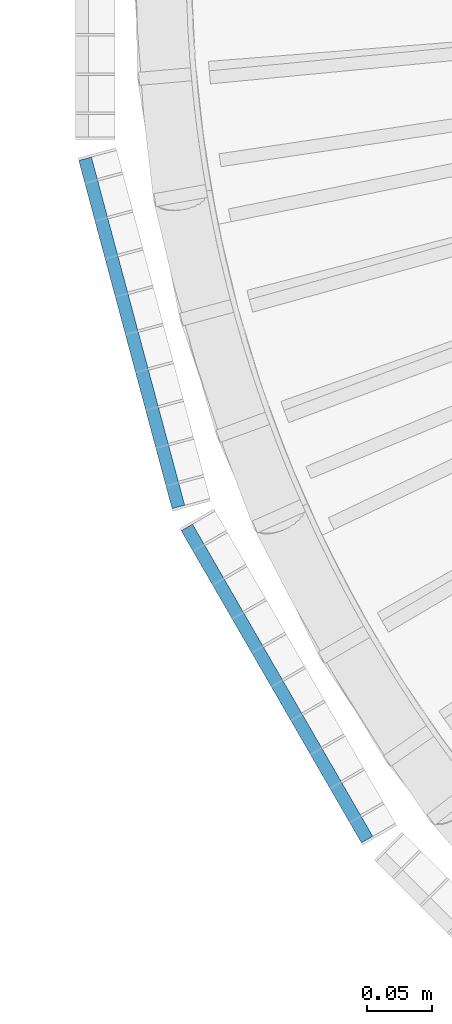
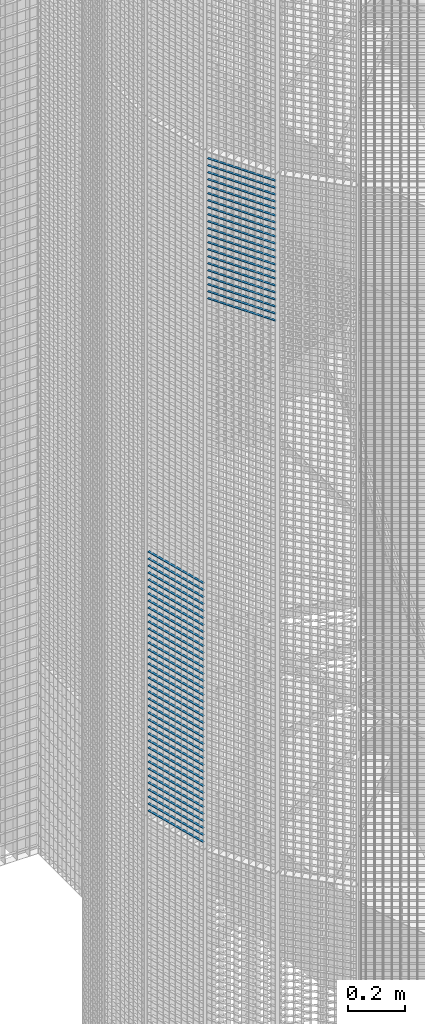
# One storey, part 363 of 1183: 59 beams, 2 elements without a shape of their own.
"""IFC2X3 building model written with IfcOpenShell, lengths in millimetres."""

from ifc_helpers import new_model, si_unit, frame, origin_with_axes, origin_2d_with_axis, place, context, subcontext, project, spatial, rectangle, extrude, material, type_object, element, aggregate, save


model = new_model("IFC2X3")

# Units and contexts
model_context = context("Model", 3, precision=1e-05, world=origin_with_axes())
body_context = subcontext(model_context, "Body", "Model", "MODEL_VIEW")
ifc_project = project(units=[si_unit("LENGTHUNIT", "METRE", prefix="MILLI"), si_unit("AREAUNIT", "SQUARE_METRE"), si_unit("VOLUMEUNIT", "CUBIC_METRE"), si_unit("MASSUNIT", "GRAM", prefix="KILO"), si_unit("TIMEUNIT", "SECOND"), si_unit("PLANEANGLEUNIT", "RADIAN"), si_unit("SOLIDANGLEUNIT", "STERADIAN"), si_unit("THERMODYNAMICTEMPERATUREUNIT", "DEGREE_CELSIUS"), si_unit("LUMINOUSINTENSITYUNIT", "LUMEN")], contexts=[model_context])

# Site, building, storey
site_placement = place(None, origin_with_axes())
site = spatial("IfcSite", under=ifc_project, at=site_placement, Name="Undefined", CompositionType="ELEMENT")
building_placement = place(site_placement, origin_with_axes())
building = spatial("IfcBuilding", under=site, at=building_placement, Name="Undefined", CompositionType="ELEMENT")
storey_placement = place(building_placement, origin_with_axes())
storey = spatial("IfcBuildingStorey", under=building, at=storey_placement, Name="Undefined", CompositionType="ELEMENT", Elevation=0.0)

# Assembly, beams
assembly_1_placement = place(storey_placement, origin_with_axes())
assembly_1 = element("IfcElementAssembly", 1, at=assembly_1_placement, inside=storey, Name="BORDURE", AssemblyPlace="NOTDEFINED", PredefinedType="NOTDEFINED")
ifc_material = material(Name="STEEL/S235JR")
beam_type = type_object("IfcBeamType", Name="PL2*10", PredefinedType="NOTDEFINED")
beam_1_placement = place(assembly_1_placement, frame((20560.1769047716, -421.483733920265, 7140.0), z_axis=(-0.965925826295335, -0.258819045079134, 0.0), x_axis=(-0.258819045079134, 0.965925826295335, 0.0)))
beam_1 = element("IfcBeam", 2, at=beam_1_placement, type_object=beam_type, material=ifc_material, Name="ENTRETOISE", context=body_context, shape_type="SweptSolid", body=[
    extrude(rectangle(XDim=2.0, YDim=10.0, at=origin_2d_with_axis()), frame((275.999999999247, 9.09494701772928e-13, 1.53210777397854e-14), z_axis=(-1.0, 0.0, 0.0), x_axis=(0.0, -1.0, 0.0)), (0.0, 0.0, 1.0), 276.0),
])
beam_2_placement = place(assembly_1_placement, frame((20560.1769047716, -421.483733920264, 6720.0), z_axis=(-0.965925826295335, -0.258819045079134, 0.0), x_axis=(-0.258819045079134, 0.965925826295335, 0.0)))
beam_2 = element("IfcBeam", 3, at=beam_2_placement, type_object=beam_type, material=ifc_material, Name="ENTRETOISE", context=body_context, shape_type="SweptSolid", body=[
    extrude(rectangle(XDim=2.0, YDim=10.0, at=origin_2d_with_axis()), frame((275.999999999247, 9.09494701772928e-13, 1.53210777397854e-14), z_axis=(-1.0, 0.0, 0.0), x_axis=(0.0, -1.0, 0.0)), (0.0, 0.0, 1.0), 276.0),
])
beam_3_placement = place(assembly_1_placement, frame((20560.1769047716, -421.483733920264, 6690.0), z_axis=(-0.965925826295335, -0.258819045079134, 0.0), x_axis=(-0.258819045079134, 0.965925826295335, 0.0)))
beam_3 = element("IfcBeam", 4, at=beam_3_placement, type_object=beam_type, material=ifc_material, Name="ENTRETOISE", context=body_context, shape_type="SweptSolid", body=[
    extrude(rectangle(XDim=2.0, YDim=10.0, at=origin_2d_with_axis()), frame((275.999999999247, 9.09494701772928e-13, 1.53210777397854e-14), z_axis=(-1.0, 0.0, 0.0), x_axis=(0.0, -1.0, 0.0)), (0.0, 0.0, 1.0), 276.0),
])
beam_4_placement = place(assembly_1_placement, frame((20560.1769047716, -421.483733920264, 6750.0), z_axis=(-0.965925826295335, -0.258819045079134, 0.0), x_axis=(-0.258819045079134, 0.965925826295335, 0.0)))
beam_4 = element("IfcBeam", 5, at=beam_4_placement, type_object=beam_type, material=ifc_material, Name="ENTRETOISE", context=body_context, shape_type="SweptSolid", body=[
    extrude(rectangle(XDim=2.0, YDim=10.0, at=origin_2d_with_axis()), frame((275.999999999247, 9.09494701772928e-13, 1.53210777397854e-14), z_axis=(-1.0, 0.0, 0.0), x_axis=(0.0, -1.0, 0.0)), (0.0, 0.0, 1.0), 276.0),
])
beam_5_placement = place(assembly_1_placement, frame((20560.1769047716, -421.483733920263, 6660.0), z_axis=(-0.965925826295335, -0.258819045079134, 0.0), x_axis=(-0.258819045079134, 0.965925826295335, 0.0)))
beam_5 = element("IfcBeam", 6, at=beam_5_placement, type_object=beam_type, material=ifc_material, Name="ENTRETOISE", context=body_context, shape_type="SweptSolid", body=[
    extrude(rectangle(XDim=2.0, YDim=10.0, at=origin_2d_with_axis()), frame((275.999999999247, 9.09494701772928e-13, 1.53210777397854e-14), z_axis=(-1.0, 0.0, 0.0), x_axis=(0.0, -1.0, 0.0)), (0.0, 0.0, 1.0), 276.0),
])
beam_6_placement = place(assembly_1_placement, frame((20560.1769047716, -421.483733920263, 6630.0), z_axis=(-0.965925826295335, -0.258819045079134, 0.0), x_axis=(-0.258819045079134, 0.965925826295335, 0.0)))
beam_6 = element("IfcBeam", 7, at=beam_6_placement, type_object=beam_type, material=ifc_material, Name="ENTRETOISE", context=body_context, shape_type="SweptSolid", body=[
    extrude(rectangle(XDim=2.0, YDim=10.0, at=origin_2d_with_axis()), frame((275.999999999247, 9.09494701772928e-13, 1.53210777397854e-14), z_axis=(-1.0, 0.0, 0.0), x_axis=(0.0, -1.0, 0.0)), (0.0, 0.0, 1.0), 276.0),
])
beam_7_placement = place(assembly_1_placement, frame((20560.1769047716, -421.483733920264, 6780.0), z_axis=(-0.965925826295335, -0.258819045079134, 0.0), x_axis=(-0.258819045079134, 0.965925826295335, 0.0)))
beam_7 = element("IfcBeam", 8, at=beam_7_placement, type_object=beam_type, material=ifc_material, Name="ENTRETOISE", context=body_context, shape_type="SweptSolid", body=[
    extrude(rectangle(XDim=2.0, YDim=10.0, at=origin_2d_with_axis()), frame((275.999999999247, 9.09494701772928e-13, 1.53210777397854e-14), z_axis=(-1.0, 0.0, 0.0), x_axis=(0.0, -1.0, 0.0)), (0.0, 0.0, 1.0), 276.0),
])
beam_8_placement = place(assembly_1_placement, frame((20560.1769047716, -421.483733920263, 6600.0), z_axis=(-0.965925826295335, -0.258819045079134, 0.0), x_axis=(-0.258819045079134, 0.965925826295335, 0.0)))
beam_8 = element("IfcBeam", 9, at=beam_8_placement, type_object=beam_type, material=ifc_material, Name="ENTRETOISE", context=body_context, shape_type="SweptSolid", body=[
    extrude(rectangle(XDim=2.0, YDim=10.0, at=origin_2d_with_axis()), frame((275.999999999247, 9.09494701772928e-13, 1.53210777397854e-14), z_axis=(-1.0, 0.0, 0.0), x_axis=(0.0, -1.0, 0.0)), (0.0, 0.0, 1.0), 276.0),
])
beam_9_placement = place(assembly_1_placement, frame((20560.1769047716, -421.483733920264, 6810.0), z_axis=(-0.965925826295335, -0.258819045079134, 0.0), x_axis=(-0.258819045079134, 0.965925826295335, 0.0)))
beam_9 = element("IfcBeam", 10, at=beam_9_placement, type_object=beam_type, material=ifc_material, Name="ENTRETOISE", context=body_context, shape_type="SweptSolid", body=[
    extrude(rectangle(XDim=2.0, YDim=10.0, at=origin_2d_with_axis()), frame((275.999999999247, 9.09494701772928e-13, 1.53210777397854e-14), z_axis=(-1.0, 0.0, 0.0), x_axis=(0.0, -1.0, 0.0)), (0.0, 0.0, 1.0), 276.0),
])
beam_10_placement = place(assembly_1_placement, frame((20560.1769047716, -421.483733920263, 6570.0), z_axis=(-0.965925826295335, -0.258819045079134, 0.0), x_axis=(-0.258819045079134, 0.965925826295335, 0.0)))
beam_10 = element("IfcBeam", 11, at=beam_10_placement, type_object=beam_type, material=ifc_material, Name="ENTRETOISE", context=body_context, shape_type="SweptSolid", body=[
    extrude(rectangle(XDim=2.0, YDim=10.0, at=origin_2d_with_axis()), frame((275.999999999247, 9.09494701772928e-13, 1.53210777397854e-14), z_axis=(-1.0, 0.0, 0.0), x_axis=(0.0, -1.0, 0.0)), (0.0, 0.0, 1.0), 276.0),
])
beam_11_placement = place(assembly_1_placement, frame((20560.1769047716, -421.483733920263, 6540.0), z_axis=(-0.965925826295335, -0.258819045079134, 0.0), x_axis=(-0.258819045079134, 0.965925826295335, 0.0)))
beam_11 = element("IfcBeam", 12, at=beam_11_placement, type_object=beam_type, material=ifc_material, Name="ENTRETOISE", context=body_context, shape_type="SweptSolid", body=[
    extrude(rectangle(XDim=2.0, YDim=10.0, at=origin_2d_with_axis()), frame((275.999999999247, 9.09494701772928e-13, 1.53210777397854e-14), z_axis=(-1.0, 0.0, 0.0), x_axis=(0.0, -1.0, 0.0)), (0.0, 0.0, 1.0), 276.0),
])
beam_12_placement = place(assembly_1_placement, frame((20560.1769047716, -421.483733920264, 6840.0), z_axis=(-0.965925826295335, -0.258819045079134, 0.0), x_axis=(-0.258819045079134, 0.965925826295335, 0.0)))
beam_12 = element("IfcBeam", 13, at=beam_12_placement, type_object=beam_type, material=ifc_material, Name="ENTRETOISE", context=body_context, shape_type="SweptSolid", body=[
    extrude(rectangle(XDim=2.0, YDim=10.0, at=origin_2d_with_axis()), frame((275.999999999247, 9.09494701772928e-13, 1.53210777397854e-14), z_axis=(-1.0, 0.0, 0.0), x_axis=(0.0, -1.0, 0.0)), (0.0, 0.0, 1.0), 276.0),
])
beam_13_placement = place(assembly_1_placement, frame((20560.1769047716, -421.483733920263, 6510.0), z_axis=(-0.965925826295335, -0.258819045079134, 0.0), x_axis=(-0.258819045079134, 0.965925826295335, 0.0)))
beam_13 = element("IfcBeam", 14, at=beam_13_placement, type_object=beam_type, material=ifc_material, Name="ENTRETOISE", context=body_context, shape_type="SweptSolid", body=[
    extrude(rectangle(XDim=2.0, YDim=10.0, at=origin_2d_with_axis()), frame((275.999999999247, 9.09494701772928e-13, 1.53210777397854e-14), z_axis=(-1.0, 0.0, 0.0), x_axis=(0.0, -1.0, 0.0)), (0.0, 0.0, 1.0), 276.0),
])
beam_14_placement = place(assembly_1_placement, frame((20560.1769047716, -421.483733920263, 6480.0), z_axis=(-0.965925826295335, -0.258819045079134, 0.0), x_axis=(-0.258819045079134, 0.965925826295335, 0.0)))
beam_14 = element("IfcBeam", 15, at=beam_14_placement, type_object=beam_type, material=ifc_material, Name="ENTRETOISE", context=body_context, shape_type="SweptSolid", body=[
    extrude(rectangle(XDim=2.0, YDim=10.0, at=origin_2d_with_axis()), frame((275.999999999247, 9.09494701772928e-13, 1.53210777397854e-14), z_axis=(-1.0, 0.0, 0.0), x_axis=(0.0, -1.0, 0.0)), (0.0, 0.0, 1.0), 276.0),
])
beam_15_placement = place(assembly_1_placement, frame((20560.1769047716, -421.483733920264, 6870.0), z_axis=(-0.965925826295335, -0.258819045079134, 0.0), x_axis=(-0.258819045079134, 0.965925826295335, 0.0)))
beam_15 = element("IfcBeam", 16, at=beam_15_placement, type_object=beam_type, material=ifc_material, Name="ENTRETOISE", context=body_context, shape_type="SweptSolid", body=[
    extrude(rectangle(XDim=2.0, YDim=10.0, at=origin_2d_with_axis()), frame((275.999999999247, 9.09494701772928e-13, 1.53210777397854e-14), z_axis=(-1.0, 0.0, 0.0), x_axis=(0.0, -1.0, 0.0)), (0.0, 0.0, 1.0), 276.0),
])
beam_16_placement = place(assembly_1_placement, frame((20560.1769047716, -421.483733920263, 6450.0), z_axis=(-0.965925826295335, -0.258819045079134, 0.0), x_axis=(-0.258819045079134, 0.965925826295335, 0.0)))
beam_16 = element("IfcBeam", 17, at=beam_16_placement, type_object=beam_type, material=ifc_material, Name="ENTRETOISE", context=body_context, shape_type="SweptSolid", body=[
    extrude(rectangle(XDim=2.0, YDim=10.0, at=origin_2d_with_axis()), frame((275.999999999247, 9.09494701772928e-13, 1.53210777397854e-14), z_axis=(-1.0, 0.0, 0.0), x_axis=(0.0, -1.0, 0.0)), (0.0, 0.0, 1.0), 276.0),
])
beam_17_placement = place(assembly_1_placement, frame((20560.1769047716, -421.483733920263, 6420.0), z_axis=(-0.965925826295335, -0.258819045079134, 0.0), x_axis=(-0.258819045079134, 0.965925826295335, 0.0)))
beam_17 = element("IfcBeam", 18, at=beam_17_placement, type_object=beam_type, material=ifc_material, Name="ENTRETOISE", context=body_context, shape_type="SweptSolid", body=[
    extrude(rectangle(XDim=2.0, YDim=10.0, at=origin_2d_with_axis()), frame((275.999999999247, 9.09494701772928e-13, 1.53210777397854e-14), z_axis=(-1.0, 0.0, 0.0), x_axis=(0.0, -1.0, 0.0)), (0.0, 0.0, 1.0), 276.0),
])
beam_18_placement = place(assembly_1_placement, frame((20560.1769047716, -421.483733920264, 6900.0), z_axis=(-0.965925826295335, -0.258819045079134, 0.0), x_axis=(-0.258819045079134, 0.965925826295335, 0.0)))
beam_18 = element("IfcBeam", 19, at=beam_18_placement, type_object=beam_type, material=ifc_material, Name="ENTRETOISE", context=body_context, shape_type="SweptSolid", body=[
    extrude(rectangle(XDim=2.0, YDim=10.0, at=origin_2d_with_axis()), frame((275.999999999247, 9.09494701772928e-13, 1.53210777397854e-14), z_axis=(-1.0, 0.0, 0.0), x_axis=(0.0, -1.0, 0.0)), (0.0, 0.0, 1.0), 276.0),
])
beam_19_placement = place(assembly_1_placement, frame((20560.1769047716, -421.483733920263, 6390.0), z_axis=(-0.965925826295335, -0.258819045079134, 0.0), x_axis=(-0.258819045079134, 0.965925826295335, 0.0)))
beam_19 = element("IfcBeam", 20, at=beam_19_placement, type_object=beam_type, material=ifc_material, Name="ENTRETOISE", context=body_context, shape_type="SweptSolid", body=[
    extrude(rectangle(XDim=2.0, YDim=10.0, at=origin_2d_with_axis()), frame((275.999999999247, 9.09494701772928e-13, 1.53210777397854e-14), z_axis=(-1.0, 0.0, 0.0), x_axis=(0.0, -1.0, 0.0)), (0.0, 0.0, 1.0), 276.0),
])
beam_20_placement = place(assembly_1_placement, frame((20560.1769047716, -421.483733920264, 6930.0), z_axis=(-0.965925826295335, -0.258819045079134, 0.0), x_axis=(-0.258819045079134, 0.965925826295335, 0.0)))
beam_20 = element("IfcBeam", 21, at=beam_20_placement, type_object=beam_type, material=ifc_material, Name="ENTRETOISE", context=body_context, shape_type="SweptSolid", body=[
    extrude(rectangle(XDim=2.0, YDim=10.0, at=origin_2d_with_axis()), frame((275.999999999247, 9.09494701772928e-13, 1.53210777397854e-14), z_axis=(-1.0, 0.0, 0.0), x_axis=(0.0, -1.0, 0.0)), (0.0, 0.0, 1.0), 276.0),
])
beam_21_placement = place(assembly_1_placement, frame((20560.1769047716, -421.483733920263, 6360.0), z_axis=(-0.965925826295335, -0.258819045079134, 0.0), x_axis=(-0.258819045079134, 0.965925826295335, 0.0)))
beam_21 = element("IfcBeam", 22, at=beam_21_placement, type_object=beam_type, material=ifc_material, Name="ENTRETOISE", context=body_context, shape_type="SweptSolid", body=[
    extrude(rectangle(XDim=2.0, YDim=10.0, at=origin_2d_with_axis()), frame((275.999999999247, 9.09494701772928e-13, 1.53210777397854e-14), z_axis=(-1.0, 0.0, 0.0), x_axis=(0.0, -1.0, 0.0)), (0.0, 0.0, 1.0), 276.0),
])
beam_22_placement = place(assembly_1_placement, frame((20560.1769047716, -421.483733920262, 6330.0), z_axis=(-0.965925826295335, -0.258819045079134, 0.0), x_axis=(-0.258819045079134, 0.965925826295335, 0.0)))
beam_22 = element("IfcBeam", 23, at=beam_22_placement, type_object=beam_type, material=ifc_material, Name="ENTRETOISE", context=body_context, shape_type="SweptSolid", body=[
    extrude(rectangle(XDim=2.0, YDim=10.0, at=origin_2d_with_axis()), frame((275.999999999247, 9.09494701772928e-13, 1.53210777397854e-14), z_axis=(-1.0, 0.0, 0.0), x_axis=(0.0, -1.0, 0.0)), (0.0, 0.0, 1.0), 276.0),
])
beam_23_placement = place(assembly_1_placement, frame((20560.1769047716, -421.483733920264, 6960.0), z_axis=(-0.965925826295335, -0.258819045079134, 0.0), x_axis=(-0.258819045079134, 0.965925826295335, 0.0)))
beam_23 = element("IfcBeam", 24, at=beam_23_placement, type_object=beam_type, material=ifc_material, Name="ENTRETOISE", context=body_context, shape_type="SweptSolid", body=[
    extrude(rectangle(XDim=2.0, YDim=10.0, at=origin_2d_with_axis()), frame((275.999999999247, 9.09494701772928e-13, 1.53210777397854e-14), z_axis=(-1.0, 0.0, 0.0), x_axis=(0.0, -1.0, 0.0)), (0.0, 0.0, 1.0), 276.0),
])
beam_24_placement = place(assembly_1_placement, frame((20560.1769047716, -421.483733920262, 6300.0), z_axis=(-0.965925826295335, -0.258819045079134, 0.0), x_axis=(-0.258819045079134, 0.965925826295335, 0.0)))
beam_24 = element("IfcBeam", 25, at=beam_24_placement, type_object=beam_type, material=ifc_material, Name="ENTRETOISE", context=body_context, shape_type="SweptSolid", body=[
    extrude(rectangle(XDim=2.0, YDim=10.0, at=origin_2d_with_axis()), frame((275.999999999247, 9.09494701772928e-13, 1.53210777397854e-14), z_axis=(-1.0, 0.0, 0.0), x_axis=(0.0, -1.0, 0.0)), (0.0, 0.0, 1.0), 276.0),
])
beam_25_placement = place(assembly_1_placement, frame((20560.1769047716, -421.483733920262, 6270.0), z_axis=(-0.965925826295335, -0.258819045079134, 0.0), x_axis=(-0.258819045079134, 0.965925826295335, 0.0)))
beam_25 = element("IfcBeam", 26, at=beam_25_placement, type_object=beam_type, material=ifc_material, Name="ENTRETOISE", context=body_context, shape_type="SweptSolid", body=[
    extrude(rectangle(XDim=2.0, YDim=10.0, at=origin_2d_with_axis()), frame((275.999999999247, 9.09494701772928e-13, 1.53210777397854e-14), z_axis=(-1.0, 0.0, 0.0), x_axis=(0.0, -1.0, 0.0)), (0.0, 0.0, 1.0), 276.0),
])
beam_26_placement = place(assembly_1_placement, frame((20560.1769047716, -421.483733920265, 6990.0), z_axis=(-0.965925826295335, -0.258819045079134, 0.0), x_axis=(-0.258819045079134, 0.965925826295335, 0.0)))
beam_26 = element("IfcBeam", 27, at=beam_26_placement, type_object=beam_type, material=ifc_material, Name="ENTRETOISE", context=body_context, shape_type="SweptSolid", body=[
    extrude(rectangle(XDim=2.0, YDim=10.0, at=origin_2d_with_axis()), frame((275.999999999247, 9.09494701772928e-13, 1.53210777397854e-14), z_axis=(-1.0, 0.0, 0.0), x_axis=(0.0, -1.0, 0.0)), (0.0, 0.0, 1.0), 276.0),
])
beam_27_placement = place(assembly_1_placement, frame((20560.1769047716, -421.483733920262, 6240.0), z_axis=(-0.965925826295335, -0.258819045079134, 0.0), x_axis=(-0.258819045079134, 0.965925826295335, 0.0)))
beam_27 = element("IfcBeam", 28, at=beam_27_placement, type_object=beam_type, material=ifc_material, Name="ENTRETOISE", context=body_context, shape_type="SweptSolid", body=[
    extrude(rectangle(XDim=2.0, YDim=10.0, at=origin_2d_with_axis()), frame((275.999999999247, 9.09494701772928e-13, 1.53210777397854e-14), z_axis=(-1.0, 0.0, 0.0), x_axis=(0.0, -1.0, 0.0)), (0.0, 0.0, 1.0), 276.0),
])
beam_28_placement = place(assembly_1_placement, frame((20560.1769047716, -421.483733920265, 7020.0), z_axis=(-0.965925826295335, -0.258819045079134, 0.0), x_axis=(-0.258819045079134, 0.965925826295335, 0.0)))
beam_28 = element("IfcBeam", 29, at=beam_28_placement, type_object=beam_type, material=ifc_material, Name="ENTRETOISE", context=body_context, shape_type="SweptSolid", body=[
    extrude(rectangle(XDim=2.0, YDim=10.0, at=origin_2d_with_axis()), frame((275.999999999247, 9.09494701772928e-13, 1.53210777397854e-14), z_axis=(-1.0, 0.0, 0.0), x_axis=(0.0, -1.0, 0.0)), (0.0, 0.0, 1.0), 276.0),
])
beam_29_placement = place(assembly_1_placement, frame((20560.1769047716, -421.483733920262, 6210.0), z_axis=(-0.965925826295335, -0.258819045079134, 0.0), x_axis=(-0.258819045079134, 0.965925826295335, 0.0)))
beam_29 = element("IfcBeam", 30, at=beam_29_placement, type_object=beam_type, material=ifc_material, Name="ENTRETOISE", context=body_context, shape_type="SweptSolid", body=[
    extrude(rectangle(XDim=2.0, YDim=10.0, at=origin_2d_with_axis()), frame((275.999999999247, 9.09494701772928e-13, 1.53210777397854e-14), z_axis=(-1.0, 0.0, 0.0), x_axis=(0.0, -1.0, 0.0)), (0.0, 0.0, 1.0), 276.0),
])
beam_30_placement = place(assembly_1_placement, frame((20560.1769047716, -421.483733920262, 6180.0), z_axis=(-0.965925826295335, -0.258819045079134, 0.0), x_axis=(-0.258819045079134, 0.965925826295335, 0.0)))
beam_30 = element("IfcBeam", 31, at=beam_30_placement, type_object=beam_type, material=ifc_material, Name="ENTRETOISE", context=body_context, shape_type="SweptSolid", body=[
    extrude(rectangle(XDim=2.0, YDim=10.0, at=origin_2d_with_axis()), frame((275.999999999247, 9.09494701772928e-13, 1.53210777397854e-14), z_axis=(-1.0, 0.0, 0.0), x_axis=(0.0, -1.0, 0.0)), (0.0, 0.0, 1.0), 276.0),
])
beam_31_placement = place(assembly_1_placement, frame((20560.1769047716, -421.483733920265, 7050.0), z_axis=(-0.965925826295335, -0.258819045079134, 0.0), x_axis=(-0.258819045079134, 0.965925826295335, 0.0)))
beam_31 = element("IfcBeam", 32, at=beam_31_placement, type_object=beam_type, material=ifc_material, Name="ENTRETOISE", context=body_context, shape_type="SweptSolid", body=[
    extrude(rectangle(XDim=2.0, YDim=10.0, at=origin_2d_with_axis()), frame((275.999999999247, 9.09494701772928e-13, 1.53210777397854e-14), z_axis=(-1.0, 0.0, 0.0), x_axis=(0.0, -1.0, 0.0)), (0.0, 0.0, 1.0), 276.0),
])
beam_32_placement = place(assembly_1_placement, frame((20560.1769047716, -421.483733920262, 6150.0), z_axis=(-0.965925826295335, -0.258819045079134, 0.0), x_axis=(-0.258819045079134, 0.965925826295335, 0.0)))
beam_32 = element("IfcBeam", 33, at=beam_32_placement, type_object=beam_type, material=ifc_material, Name="ENTRETOISE", context=body_context, shape_type="SweptSolid", body=[
    extrude(rectangle(XDim=2.0, YDim=10.0, at=origin_2d_with_axis()), frame((275.999999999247, 9.09494701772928e-13, 1.53210777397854e-14), z_axis=(-1.0, 0.0, 0.0), x_axis=(0.0, -1.0, 0.0)), (0.0, 0.0, 1.0), 276.0),
])
beam_33_placement = place(assembly_1_placement, frame((20560.1769047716, -421.483733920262, 6120.0), z_axis=(-0.965925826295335, -0.258819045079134, 0.0), x_axis=(-0.258819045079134, 0.965925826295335, 0.0)))
beam_33 = element("IfcBeam", 34, at=beam_33_placement, type_object=beam_type, material=ifc_material, Name="ENTRETOISE", context=body_context, shape_type="SweptSolid", body=[
    extrude(rectangle(XDim=2.0, YDim=10.0, at=origin_2d_with_axis()), frame((275.999999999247, 9.09494701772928e-13, 1.53210777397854e-14), z_axis=(-1.0, 0.0, 0.0), x_axis=(0.0, -1.0, 0.0)), (0.0, 0.0, 1.0), 276.0),
])
beam_34_placement = place(assembly_1_placement, frame((20560.1769047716, -421.483733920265, 7080.0), z_axis=(-0.965925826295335, -0.258819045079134, 0.0), x_axis=(-0.258819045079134, 0.965925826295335, 0.0)))
beam_34 = element("IfcBeam", 35, at=beam_34_placement, type_object=beam_type, material=ifc_material, Name="ENTRETOISE", context=body_context, shape_type="SweptSolid", body=[
    extrude(rectangle(XDim=2.0, YDim=10.0, at=origin_2d_with_axis()), frame((275.999999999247, 9.09494701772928e-13, 1.53210777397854e-14), z_axis=(-1.0, 0.0, 0.0), x_axis=(0.0, -1.0, 0.0)), (0.0, 0.0, 1.0), 276.0),
])
beam_35_placement = place(assembly_1_placement, frame((20560.1769047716, -421.483733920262, 6090.0), z_axis=(-0.965925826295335, -0.258819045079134, 0.0), x_axis=(-0.258819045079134, 0.965925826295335, 0.0)))
beam_35 = element("IfcBeam", 36, at=beam_35_placement, type_object=beam_type, material=ifc_material, Name="ENTRETOISE", context=body_context, shape_type="SweptSolid", body=[
    extrude(rectangle(XDim=2.0, YDim=10.0, at=origin_2d_with_axis()), frame((275.999999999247, 9.09494701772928e-13, 1.53210777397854e-14), z_axis=(-1.0, 0.0, 0.0), x_axis=(0.0, -1.0, 0.0)), (0.0, 0.0, 1.0), 276.0),
])
beam_36_placement = place(assembly_1_placement, frame((20560.1769047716, -421.483733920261, 6060.0), z_axis=(-0.965925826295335, -0.258819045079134, 0.0), x_axis=(-0.258819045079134, 0.965925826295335, 0.0)))
beam_36 = element("IfcBeam", 37, at=beam_36_placement, type_object=beam_type, material=ifc_material, Name="ENTRETOISE", context=body_context, shape_type="SweptSolid", body=[
    extrude(rectangle(XDim=2.0, YDim=10.0, at=origin_2d_with_axis()), frame((275.999999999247, 9.09494701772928e-13, 1.53210777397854e-14), z_axis=(-1.0, 0.0, 0.0), x_axis=(0.0, -1.0, 0.0)), (0.0, 0.0, 1.0), 276.0),
])
beam_37_placement = place(assembly_1_placement, frame((20560.1769047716, -421.483733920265, 7110.0), z_axis=(-0.965925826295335, -0.258819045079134, 0.0), x_axis=(-0.258819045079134, 0.965925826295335, 0.0)))
beam_37 = element("IfcBeam", 38, at=beam_37_placement, type_object=beam_type, material=ifc_material, Name="ENTRETOISE", context=body_context, shape_type="SweptSolid", body=[
    extrude(rectangle(XDim=2.0, YDim=10.0, at=origin_2d_with_axis()), frame((275.999999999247, 9.09494701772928e-13, 1.53210777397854e-14), z_axis=(-1.0, 0.0, 0.0), x_axis=(0.0, -1.0, 0.0)), (0.0, 0.0, 1.0), 276.0),
])
beam_38_placement = place(assembly_1_placement, frame((20560.1769047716, -421.48373392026, 6030.0), z_axis=(-0.965925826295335, -0.258819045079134, 0.0), x_axis=(-0.258819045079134, 0.965925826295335, 0.0)))
beam_38 = element("IfcBeam", 39, at=beam_38_placement, type_object=beam_type, material=ifc_material, Name="ENTRETOISE", context=body_context, shape_type="SweptSolid", body=[
    extrude(rectangle(XDim=2.0, YDim=10.0, at=origin_2d_with_axis()), frame((275.999999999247, 9.09494701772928e-13, 1.53210777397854e-14), z_axis=(-1.0, 0.0, 0.0), x_axis=(0.0, -1.0, 0.0)), (0.0, 0.0, 1.0), 276.0),
])
aggregate(assembly_1, [beam_1, beam_2, beam_3, beam_4, beam_5, beam_6, beam_7, beam_8, beam_9, beam_10, beam_11, beam_12, beam_13, beam_14, beam_15, beam_16, beam_17, beam_18, beam_19, beam_20, beam_21, beam_22, beam_23, beam_24, beam_25, beam_26, beam_27, beam_28, beam_29, beam_30, beam_31, beam_32, beam_33, beam_34, beam_35, beam_36, beam_37, beam_38])

assembly_2_placement = place(storey_placement, origin_with_axes())
assembly_2 = element("IfcElementAssembly", 40, at=assembly_2_placement, inside=storey, Name="BORDURE", AssemblyPlace="NOTDEFINED", PredefinedType="NOTDEFINED")
beam_39_placement = place(assembly_2_placement, frame((20704.6960350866, -676.248044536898, 8970.0), z_axis=(-0.866025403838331, -0.499999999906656, 0.0), x_axis=(-0.49999999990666, 0.866025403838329, 0.0)))
beam_39 = element("IfcBeam", 41, at=beam_39_placement, type_object=beam_type, material=ifc_material, Name="ENTRETOISE", context=body_context, shape_type="SweptSolid", body=[
    extrude(rectangle(XDim=2.0, YDim=10.0, at=origin_2d_with_axis()), frame((275.999999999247, 9.09494701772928e-13, 1.53210777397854e-14), z_axis=(-1.0, 0.0, 0.0), x_axis=(0.0, -1.0, 0.0)), (0.0, 0.0, 1.0), 276.0),
])
beam_40_placement = place(assembly_2_placement, frame((20704.6960350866, -676.248044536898, 8940.0), z_axis=(-0.866025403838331, -0.499999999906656, 0.0), x_axis=(-0.49999999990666, 0.866025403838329, 0.0)))
beam_40 = element("IfcBeam", 42, at=beam_40_placement, type_object=beam_type, material=ifc_material, Name="ENTRETOISE", context=body_context, shape_type="SweptSolid", body=[
    extrude(rectangle(XDim=2.0, YDim=10.0, at=origin_2d_with_axis()), frame((275.999999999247, 9.09494701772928e-13, 1.53210777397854e-14), z_axis=(-1.0, 0.0, 0.0), x_axis=(0.0, -1.0, 0.0)), (0.0, 0.0, 1.0), 276.0),
])
beam_41_placement = place(assembly_2_placement, frame((20704.6960350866, -676.248044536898, 8910.0), z_axis=(-0.866025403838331, -0.499999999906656, 0.0), x_axis=(-0.49999999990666, 0.866025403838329, 0.0)))
beam_41 = element("IfcBeam", 43, at=beam_41_placement, type_object=beam_type, material=ifc_material, Name="ENTRETOISE", context=body_context, shape_type="SweptSolid", body=[
    extrude(rectangle(XDim=2.0, YDim=10.0, at=origin_2d_with_axis()), frame((275.999999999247, 9.09494701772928e-13, 1.53210777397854e-14), z_axis=(-1.0, 0.0, 0.0), x_axis=(0.0, -1.0, 0.0)), (0.0, 0.0, 1.0), 276.0),
])
beam_42_placement = place(assembly_2_placement, frame((20704.6960350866, -676.248044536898, 8880.0), z_axis=(-0.866025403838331, -0.499999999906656, 0.0), x_axis=(-0.49999999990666, 0.866025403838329, 0.0)))
beam_42 = element("IfcBeam", 44, at=beam_42_placement, type_object=beam_type, material=ifc_material, Name="ENTRETOISE", context=body_context, shape_type="SweptSolid", body=[
    extrude(rectangle(XDim=2.0, YDim=10.0, at=origin_2d_with_axis()), frame((275.999999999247, 9.09494701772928e-13, 1.53210777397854e-14), z_axis=(-1.0, 0.0, 0.0), x_axis=(0.0, -1.0, 0.0)), (0.0, 0.0, 1.0), 276.0),
])
beam_43_placement = place(assembly_2_placement, frame((20704.6960350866, -676.248044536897, 8850.0), z_axis=(-0.866025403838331, -0.499999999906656, 0.0), x_axis=(-0.49999999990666, 0.866025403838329, 0.0)))
beam_43 = element("IfcBeam", 45, at=beam_43_placement, type_object=beam_type, material=ifc_material, Name="ENTRETOISE", context=body_context, shape_type="SweptSolid", body=[
    extrude(rectangle(XDim=2.0, YDim=10.0, at=origin_2d_with_axis()), frame((275.999999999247, 9.09494701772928e-13, 1.53210777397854e-14), z_axis=(-1.0, 0.0, 0.0), x_axis=(0.0, -1.0, 0.0)), (0.0, 0.0, 1.0), 276.0),
])
beam_44_placement = place(assembly_2_placement, frame((20704.6960350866, -676.248044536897, 8820.0), z_axis=(-0.866025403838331, -0.499999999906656, 0.0), x_axis=(-0.49999999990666, 0.866025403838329, 0.0)))
beam_44 = element("IfcBeam", 46, at=beam_44_placement, type_object=beam_type, material=ifc_material, Name="ENTRETOISE", context=body_context, shape_type="SweptSolid", body=[
    extrude(rectangle(XDim=2.0, YDim=10.0, at=origin_2d_with_axis()), frame((275.999999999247, 9.09494701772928e-13, 1.53210777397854e-14), z_axis=(-1.0, 0.0, 0.0), x_axis=(0.0, -1.0, 0.0)), (0.0, 0.0, 1.0), 276.0),
])
beam_45_placement = place(assembly_2_placement, frame((20704.6960350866, -676.248044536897, 8790.0), z_axis=(-0.866025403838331, -0.499999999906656, 0.0), x_axis=(-0.49999999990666, 0.866025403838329, 0.0)))
beam_45 = element("IfcBeam", 47, at=beam_45_placement, type_object=beam_type, material=ifc_material, Name="ENTRETOISE", context=body_context, shape_type="SweptSolid", body=[
    extrude(rectangle(XDim=2.0, YDim=10.0, at=origin_2d_with_axis()), frame((275.999999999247, 9.09494701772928e-13, 1.53210777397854e-14), z_axis=(-1.0, 0.0, 0.0), x_axis=(0.0, -1.0, 0.0)), (0.0, 0.0, 1.0), 276.0),
])
beam_46_placement = place(assembly_2_placement, frame((20704.6960350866, -676.248044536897, 8760.0), z_axis=(-0.866025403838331, -0.499999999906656, 0.0), x_axis=(-0.49999999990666, 0.866025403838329, 0.0)))
beam_46 = element("IfcBeam", 48, at=beam_46_placement, type_object=beam_type, material=ifc_material, Name="ENTRETOISE", context=body_context, shape_type="SweptSolid", body=[
    extrude(rectangle(XDim=2.0, YDim=10.0, at=origin_2d_with_axis()), frame((275.999999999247, 9.09494701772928e-13, 1.53210777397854e-14), z_axis=(-1.0, 0.0, 0.0), x_axis=(0.0, -1.0, 0.0)), (0.0, 0.0, 1.0), 276.0),
])
beam_47_placement = place(assembly_2_placement, frame((20704.6960350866, -676.248044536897, 8730.0), z_axis=(-0.866025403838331, -0.499999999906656, 0.0), x_axis=(-0.49999999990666, 0.866025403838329, 0.0)))
beam_47 = element("IfcBeam", 49, at=beam_47_placement, type_object=beam_type, material=ifc_material, Name="ENTRETOISE", context=body_context, shape_type="SweptSolid", body=[
    extrude(rectangle(XDim=2.0, YDim=10.0, at=origin_2d_with_axis()), frame((275.999999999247, 9.09494701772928e-13, 1.53210777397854e-14), z_axis=(-1.0, 0.0, 0.0), x_axis=(0.0, -1.0, 0.0)), (0.0, 0.0, 1.0), 276.0),
])
beam_48_placement = place(assembly_2_placement, frame((20704.6960350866, -676.248044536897, 8700.0), z_axis=(-0.866025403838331, -0.499999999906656, 0.0), x_axis=(-0.49999999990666, 0.866025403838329, 0.0)))
beam_48 = element("IfcBeam", 50, at=beam_48_placement, type_object=beam_type, material=ifc_material, Name="ENTRETOISE", context=body_context, shape_type="SweptSolid", body=[
    extrude(rectangle(XDim=2.0, YDim=10.0, at=origin_2d_with_axis()), frame((275.999999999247, 9.09494701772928e-13, 1.53210777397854e-14), z_axis=(-1.0, 0.0, 0.0), x_axis=(0.0, -1.0, 0.0)), (0.0, 0.0, 1.0), 276.0),
])
beam_49_placement = place(assembly_2_placement, frame((20704.6960350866, -676.248044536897, 8670.0), z_axis=(-0.866025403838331, -0.499999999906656, 0.0), x_axis=(-0.49999999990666, 0.866025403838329, 0.0)))
beam_49 = element("IfcBeam", 51, at=beam_49_placement, type_object=beam_type, material=ifc_material, Name="ENTRETOISE", context=body_context, shape_type="SweptSolid", body=[
    extrude(rectangle(XDim=2.0, YDim=10.0, at=origin_2d_with_axis()), frame((275.999999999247, 9.09494701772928e-13, 1.53210777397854e-14), z_axis=(-1.0, 0.0, 0.0), x_axis=(0.0, -1.0, 0.0)), (0.0, 0.0, 1.0), 276.0),
])
beam_50_placement = place(assembly_2_placement, frame((20704.6960350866, -676.248044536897, 8640.0), z_axis=(-0.866025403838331, -0.499999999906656, 0.0), x_axis=(-0.49999999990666, 0.866025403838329, 0.0)))
beam_50 = element("IfcBeam", 52, at=beam_50_placement, type_object=beam_type, material=ifc_material, Name="ENTRETOISE", context=body_context, shape_type="SweptSolid", body=[
    extrude(rectangle(XDim=2.0, YDim=10.0, at=origin_2d_with_axis()), frame((275.999999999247, 9.09494701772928e-13, 1.53210777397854e-14), z_axis=(-1.0, 0.0, 0.0), x_axis=(0.0, -1.0, 0.0)), (0.0, 0.0, 1.0), 276.0),
])
beam_51_placement = place(assembly_2_placement, frame((20704.6960350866, -676.248044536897, 8610.0), z_axis=(-0.866025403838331, -0.499999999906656, 0.0), x_axis=(-0.49999999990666, 0.866025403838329, 0.0)))
beam_51 = element("IfcBeam", 53, at=beam_51_placement, type_object=beam_type, material=ifc_material, Name="ENTRETOISE", context=body_context, shape_type="SweptSolid", body=[
    extrude(rectangle(XDim=2.0, YDim=10.0, at=origin_2d_with_axis()), frame((275.999999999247, 9.09494701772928e-13, 1.53210777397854e-14), z_axis=(-1.0, 0.0, 0.0), x_axis=(0.0, -1.0, 0.0)), (0.0, 0.0, 1.0), 276.0),
])
beam_52_placement = place(assembly_2_placement, frame((20704.6960350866, -676.248044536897, 8580.0), z_axis=(-0.866025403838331, -0.499999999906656, 0.0), x_axis=(-0.49999999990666, 0.866025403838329, 0.0)))
beam_52 = element("IfcBeam", 54, at=beam_52_placement, type_object=beam_type, material=ifc_material, Name="ENTRETOISE", context=body_context, shape_type="SweptSolid", body=[
    extrude(rectangle(XDim=2.0, YDim=10.0, at=origin_2d_with_axis()), frame((275.999999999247, 9.09494701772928e-13, 1.53210777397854e-14), z_axis=(-1.0, 0.0, 0.0), x_axis=(0.0, -1.0, 0.0)), (0.0, 0.0, 1.0), 276.0),
])
beam_53_placement = place(assembly_2_placement, frame((20704.6960350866, -676.248044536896, 8550.0), z_axis=(-0.866025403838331, -0.499999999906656, 0.0), x_axis=(-0.49999999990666, 0.866025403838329, 0.0)))
beam_53 = element("IfcBeam", 55, at=beam_53_placement, type_object=beam_type, material=ifc_material, Name="ENTRETOISE", context=body_context, shape_type="SweptSolid", body=[
    extrude(rectangle(XDim=2.0, YDim=10.0, at=origin_2d_with_axis()), frame((275.999999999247, 9.09494701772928e-13, 1.53210777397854e-14), z_axis=(-1.0, 0.0, 0.0), x_axis=(0.0, -1.0, 0.0)), (0.0, 0.0, 1.0), 276.0),
])
beam_54_placement = place(assembly_2_placement, frame((20704.6960350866, -676.248044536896, 8520.0), z_axis=(-0.866025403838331, -0.499999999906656, 0.0), x_axis=(-0.49999999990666, 0.866025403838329, 0.0)))
beam_54 = element("IfcBeam", 56, at=beam_54_placement, type_object=beam_type, material=ifc_material, Name="ENTRETOISE", context=body_context, shape_type="SweptSolid", body=[
    extrude(rectangle(XDim=2.0, YDim=10.0, at=origin_2d_with_axis()), frame((275.999999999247, 9.09494701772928e-13, 1.53210777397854e-14), z_axis=(-1.0, 0.0, 0.0), x_axis=(0.0, -1.0, 0.0)), (0.0, 0.0, 1.0), 276.0),
])
beam_55_placement = place(assembly_2_placement, frame((20704.6960350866, -676.248044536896, 8490.0), z_axis=(-0.866025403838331, -0.499999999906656, 0.0), x_axis=(-0.49999999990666, 0.866025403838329, 0.0)))
beam_55 = element("IfcBeam", 57, at=beam_55_placement, type_object=beam_type, material=ifc_material, Name="ENTRETOISE", context=body_context, shape_type="SweptSolid", body=[
    extrude(rectangle(XDim=2.0, YDim=10.0, at=origin_2d_with_axis()), frame((275.999999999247, 9.09494701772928e-13, 1.53210777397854e-14), z_axis=(-1.0, 0.0, 0.0), x_axis=(0.0, -1.0, 0.0)), (0.0, 0.0, 1.0), 276.0),
])
beam_56_placement = place(assembly_2_placement, frame((20704.6960350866, -676.248044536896, 8460.0), z_axis=(-0.866025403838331, -0.499999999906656, 0.0), x_axis=(-0.49999999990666, 0.866025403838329, 0.0)))
beam_56 = element("IfcBeam", 58, at=beam_56_placement, type_object=beam_type, material=ifc_material, Name="ENTRETOISE", context=body_context, shape_type="SweptSolid", body=[
    extrude(rectangle(XDim=2.0, YDim=10.0, at=origin_2d_with_axis()), frame((275.999999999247, 9.09494701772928e-13, 1.53210777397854e-14), z_axis=(-1.0, 0.0, 0.0), x_axis=(0.0, -1.0, 0.0)), (0.0, 0.0, 1.0), 276.0),
])
beam_57_placement = place(assembly_2_placement, frame((20704.6960350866, -676.248044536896, 8430.0), z_axis=(-0.866025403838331, -0.499999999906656, 0.0), x_axis=(-0.49999999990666, 0.866025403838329, 0.0)))
beam_57 = element("IfcBeam", 59, at=beam_57_placement, type_object=beam_type, material=ifc_material, Name="ENTRETOISE", context=body_context, shape_type="SweptSolid", body=[
    extrude(rectangle(XDim=2.0, YDim=10.0, at=origin_2d_with_axis()), frame((275.999999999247, 9.09494701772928e-13, 1.53210777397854e-14), z_axis=(-1.0, 0.0, 0.0), x_axis=(0.0, -1.0, 0.0)), (0.0, 0.0, 1.0), 276.0),
])
beam_58_placement = place(assembly_2_placement, frame((20704.6960350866, -676.248044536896, 8400.0), z_axis=(-0.866025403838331, -0.499999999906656, 0.0), x_axis=(-0.49999999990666, 0.866025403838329, 0.0)))
beam_58 = element("IfcBeam", 60, at=beam_58_placement, type_object=beam_type, material=ifc_material, Name="ENTRETOISE", context=body_context, shape_type="SweptSolid", body=[
    extrude(rectangle(XDim=2.0, YDim=10.0, at=origin_2d_with_axis()), frame((275.999999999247, 9.09494701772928e-13, 1.53210777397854e-14), z_axis=(-1.0, 0.0, 0.0), x_axis=(0.0, -1.0, 0.0)), (0.0, 0.0, 1.0), 276.0),
])
beam_59_placement = place(assembly_2_placement, frame((20704.6960350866, -676.248044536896, 8370.0), z_axis=(-0.866025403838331, -0.499999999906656, 0.0), x_axis=(-0.49999999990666, 0.866025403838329, 0.0)))
beam_59 = element("IfcBeam", 61, at=beam_59_placement, type_object=beam_type, material=ifc_material, Name="ENTRETOISE", context=body_context, shape_type="SweptSolid", body=[
    extrude(rectangle(XDim=2.0, YDim=10.0, at=origin_2d_with_axis()), frame((275.999999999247, 9.09494701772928e-13, 1.53210777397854e-14), z_axis=(-1.0, 0.0, 0.0), x_axis=(0.0, -1.0, 0.0)), (0.0, 0.0, 1.0), 276.0),
])
aggregate(assembly_2, [beam_39, beam_40, beam_41, beam_42, beam_43, beam_44, beam_45, beam_46, beam_47, beam_48, beam_49, beam_50, beam_51, beam_52, beam_53, beam_54, beam_55, beam_56, beam_57, beam_58, beam_59])

save(model, "model.ifc")
